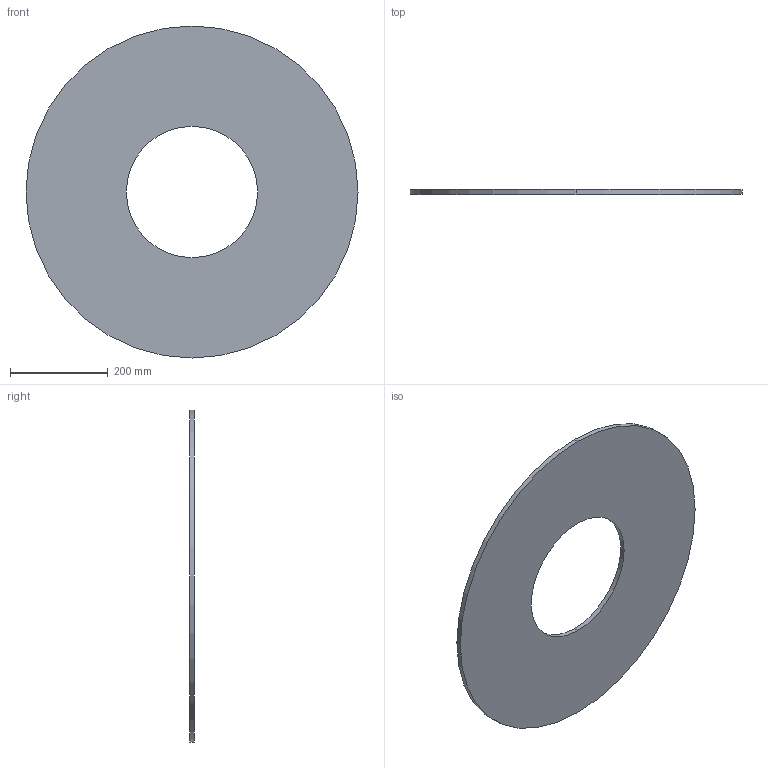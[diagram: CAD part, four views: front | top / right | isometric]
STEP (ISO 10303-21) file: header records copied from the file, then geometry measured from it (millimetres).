
FILE_DESCRIPTION (( 'STEP AP203' ), '1' );
FILE_NAME ('3D_R152_DN200_17305290.STEP', '2024-08-13T07:58:36', ( '' ), ( '' ), 'SwSTEP 2.0', 'SolidWorks 2024', '' );
FILE_SCHEMA (( 'CONFIG_CONTROL_DESIGN' ));
Length unit declared in the file: millimetre
Products named in the file (1): 3D_R152_DN200_17305290
Bounding box: 678 x 10 x 678 mm (x, y, z)
Volume: 3046245.3 mm3; surface area: 638968.5 mm2
Topology: 1 solids, 1 shells, 6 faces, 12 edges, 8 vertices
Faces by surface type: cylinder 4, plane 2
Entity records: 245 total; most frequent: DIRECTION 34, CARTESIAN_POINT 27, ORIENTED_EDGE 24, AXIS2_PLACEMENT_3D 15, EDGE_CURVE 12, PERSON_AND_ORGANIZATION 8, EDGE_LOOP 8, VERTEX_POINT 8
